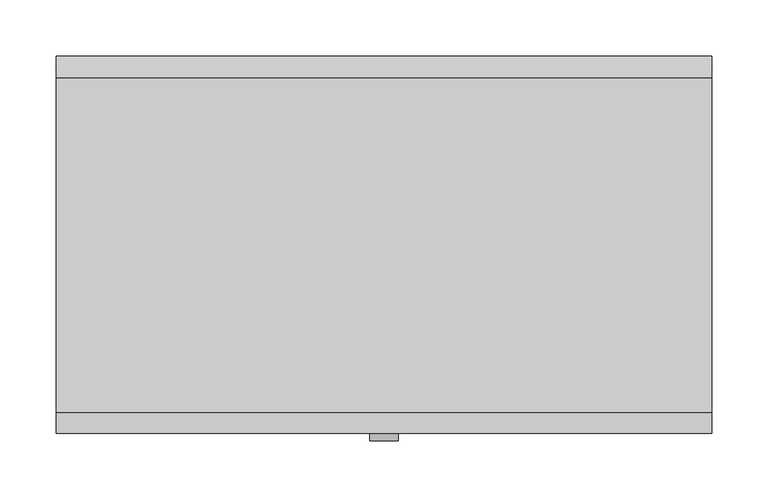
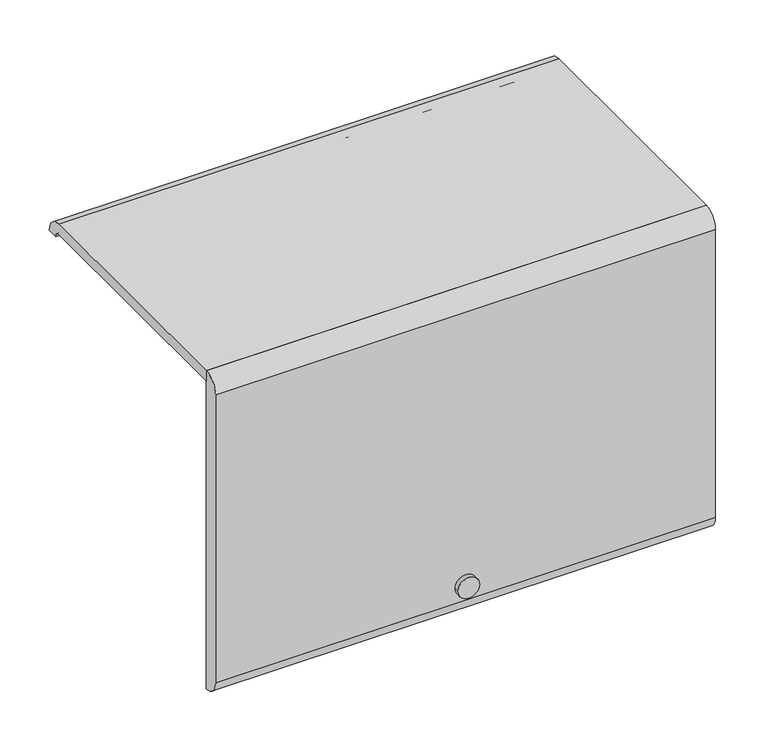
"""IFC4 building model written with IfcOpenShell, lengths in millimetres: furniture geometry, HermanMiller_ActionOffice_B-StyleFlipperDoor : Paint 15-1/2H x 13D x 24W."""

from ifc_helpers import new_model, si_unit, point, frame, frame_2d, origin, place, context, project, spatial, polyline, circle_curve, trimmed, segment, composite_curve, outline, extrude, source, transform, mapped, element, save


def furniture_82778d6f(model_context):
    return source(origin(), model_context, "Body", "SweptSolid", [
        extrude(outline(composite_curve([segment(polyline([(-136.525, 1562.1), (-136.525, 1574.8), (161.925, 1574.8)]), True, "CONTINUOUS"), segment(trimmed(circle_curve(frame_2d((161.925, 1555.75)), 19.05), [point((161.925, 1574.8))], [point((180.975, 1555.75))], False, "CARTESIAN"), True, "CONTINUOUS"), segment(polyline([(180.975, 1555.75), (168.275, 1555.75)]), True, "CONTINUOUS"), segment(trimmed(circle_curve(frame_2d((161.925, 1555.75)), 6.35), [point((168.275, 1555.75))], [point((161.925, 1562.1))], True, "CARTESIAN"), True, "CONTINUOUS"), segment(polyline([(161.925, 1562.1), (-136.525, 1562.1)]), True, "CONTINUOUS")], self_intersect=False)), frame((-292.1, 0.0, 0.0), z_axis=(1.0, 0.0, 0.0), x_axis=(0.0, 1.0, 0.0)), (0.0, 0.0, 1.0), 584.2),
        extrude(outline(composite_curve([segment(trimmed(circle_curve(frame_2d((-136.525, 1555.75)), 19.05), [point((-155.575, 1555.75))], [point((-136.525, 1574.8))], False, "CARTESIAN"), True, "CONTINUOUS"), segment(polyline([(-136.525, 1574.8), (-136.525, 1181.1)]), True, "CONTINUOUS"), segment(trimmed(circle_curve(frame_2d((-136.525, 1200.15)), 19.05), [point((-136.525, 1181.1))], [point((-155.575, 1200.15))], False, "CARTESIAN"), True, "CONTINUOUS"), segment(polyline([(-155.575, 1200.15), (-155.575, 1555.75)]), True, "CONTINUOUS")], self_intersect=False)), frame((-292.1, 0.0, 0.0), z_axis=(1.0, 0.0, 0.0), x_axis=(0.0, 1.0, 0.0)), (0.0, 0.0, 1.0), 584.2),
        extrude(outline(composite_curve([segment(trimmed(circle_curve(frame_2d((1219.1618906, 0.0201199)), 12.7253951), [point((1219.1618906, 12.745515))], [point((1219.1618906, -12.7052752))], False, "CARTESIAN"), True, "CONTINUOUS"), segment(trimmed(circle_curve(frame_2d((1219.1618906, 0.0201199)), 12.7253951), [point((1219.1618906, -12.7052752))], [point((1219.1618906, 12.745515))], False, "CARTESIAN"), True, "CONTINUOUS")], self_intersect=False)), frame((0.0, -161.925, 0.0), z_axis=(0.0, 1.0, 0.0), x_axis=(0.0, 0.0, 1.0)), (0.0, 0.0, 1.0), 6.35),
    ])


if __name__ == "__main__":
    model = new_model("IFC4")
    model_context = context("Model", 3, world=origin())
    ifc_project = project(units=[si_unit("LENGTHUNIT", "METRE", prefix="MILLI")], contexts=[model_context])
    site = spatial("IfcSite", under=ifc_project)
    building = spatial("IfcBuilding", under=site)
    placement = place(None, origin())
    furniture_shape = furniture_82778d6f(model_context)
    element("IfcFurniture", 1, ObjectType="HermanMiller_ActionOffice_B-StyleFlipperDoor : Paint 15-1/2H x 13D x 24W", at=placement, inside=building, context=model_context, shape_type="MappedRepresentation", body=[
        mapped(furniture_shape, transform((0.0, 0.0, 0.0), x_axis=(1.0, 0.0, 0.0), y_axis=(0.0, 1.0, 0.0), z_axis=(0.0, 0.0, 1.0))),
    ])
    save(model, "model.ifc")
